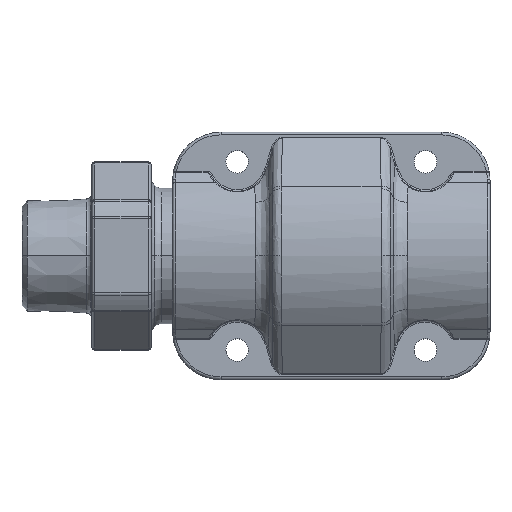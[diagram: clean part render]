
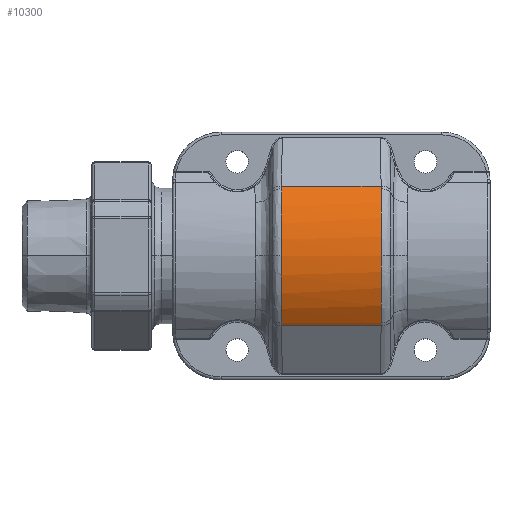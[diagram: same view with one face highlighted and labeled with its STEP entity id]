
A CAD part, top view. The second image highlights one B-rep face of the part: STEP entity #10300.
In plain terms, the highlighted cylindrical face has radius 21.9 mm (diameter 43.8 mm), a partial arc.
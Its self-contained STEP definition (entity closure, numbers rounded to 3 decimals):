
#4789=CARTESIAN_POINT('',(9.259,12.982,17.638));
#4794=CARTESIAN_POINT('',(-9.259,12.982,17.638));
#5823=CARTESIAN_POINT('',(-9.256,12.445,18.02));
#5824=CARTESIAN_POINT('',(-9.258,11.719,18.522));
#5825=CARTESIAN_POINT('',(-9.262,10.206,19.437));
#5826=CARTESIAN_POINT('',(-9.266,7.788,20.526));
#5827=CARTESIAN_POINT('',(-9.269,5.256,21.315));
#5828=CARTESIAN_POINT('',(-9.271,2.647,21.793));
#5829=CARTESIAN_POINT('',(-9.272,0.882,
21.9));
#5830=CARTESIAN_POINT('',(-9.272,0.,
21.9));
#5856=DIRECTION('',(1.,0.,0.));
#5857=VECTOR('',#5856,18.517);
#5858=CARTESIAN_POINT('',(-9.259,12.982,17.638));
#5859=LINE('',#5858,#5857);
#5863=DIRECTION('',(-1.,0.,0.));
#5864=VECTOR('',#5863,18.517);
#5865=CARTESIAN_POINT('',(9.259,-12.982,17.638));
#5866=LINE('',#5865,#5864);
#5870=CARTESIAN_POINT('',(-9.256,-12.446,
18.019));
#5871=CARTESIAN_POINT('',(-9.256,-12.505,
17.979));
#5872=CARTESIAN_POINT('',(-9.257,-12.622,
17.897));
#5873=CARTESIAN_POINT('',(-9.256,-12.801,
17.769));
#5874=CARTESIAN_POINT('',(-9.258,-12.921,
17.682));
#5875=CARTESIAN_POINT('',(-9.259,-12.982,
17.638));
#5930=CARTESIAN_POINT('',(-9.259,-12.982,
17.638));
#5935=CARTESIAN_POINT('',(9.259,-12.982,17.638));
#6046=CARTESIAN_POINT('',(9.259,-12.982,17.638));
#6047=CARTESIAN_POINT('',(9.258,-12.923,17.681));
#6048=CARTESIAN_POINT('',(9.256,-12.804,17.767));
#6049=CARTESIAN_POINT('',(9.257,-12.626,17.895));
#6050=CARTESIAN_POINT('',(9.256,-12.506,17.979));
#6051=CARTESIAN_POINT('',(9.256,-12.445,18.02));
#6065=CARTESIAN_POINT('',(9.256,-12.445,18.02));
#6066=CARTESIAN_POINT('',(9.258,-11.719,18.522));
#6067=CARTESIAN_POINT('',(9.262,-10.206,19.437));
#6068=CARTESIAN_POINT('',(9.266,-7.788,20.526));
#6069=CARTESIAN_POINT('',(9.269,-5.256,21.315));
#6070=CARTESIAN_POINT('',(9.271,-2.647,21.793));
#6071=CARTESIAN_POINT('',(9.272,-0.882,
21.9));
#6072=CARTESIAN_POINT('',(9.272,0.,
21.9));
#6098=CARTESIAN_POINT('',(9.272,0.,
21.9));
#6099=CARTESIAN_POINT('',(9.272,0.883,21.9));
#6100=CARTESIAN_POINT('',(9.271,2.648,21.793));
#6101=CARTESIAN_POINT('',(9.269,5.257,21.315));
#6102=CARTESIAN_POINT('',(9.266,7.789,20.525));
#6103=CARTESIAN_POINT('',(9.262,10.207,19.436));
#6104=CARTESIAN_POINT('',(9.258,11.72,18.521));
#6105=CARTESIAN_POINT('',(9.256,12.446,18.019));
#6133=CARTESIAN_POINT('',(9.256,12.446,18.019));
#6134=CARTESIAN_POINT('',(9.256,12.505,17.979));
#6135=CARTESIAN_POINT('',(9.257,12.622,17.897));
#6136=CARTESIAN_POINT('',(9.256,12.801,17.769));
#6137=CARTESIAN_POINT('',(9.258,12.921,17.682));
#6138=CARTESIAN_POINT('',(9.259,12.982,17.638));
#7182=CARTESIAN_POINT('',(-9.272,0.,
21.9));
#7183=CARTESIAN_POINT('',(-9.272,-0.883,
21.9));
#7184=CARTESIAN_POINT('',(-9.271,-2.648,
21.793));
#7185=CARTESIAN_POINT('',(-9.269,-5.257,
21.315));
#7186=CARTESIAN_POINT('',(-9.266,-7.789,
20.525));
#7187=CARTESIAN_POINT('',(-9.262,-10.207,
19.436));
#7188=CARTESIAN_POINT('',(-9.258,-11.72,
18.521));
#7189=CARTESIAN_POINT('',(-9.256,-12.446,
18.019));
#7217=CARTESIAN_POINT('',(-9.259,12.982,17.638));
#7218=CARTESIAN_POINT('',(-9.258,12.923,17.681));
#7219=CARTESIAN_POINT('',(-9.256,12.804,17.767));
#7220=CARTESIAN_POINT('',(-9.257,12.626,17.895));
#7221=CARTESIAN_POINT('',(-9.256,12.506,17.979));
#7222=CARTESIAN_POINT('',(-9.256,12.445,18.02));
#7537=VERTEX_POINT('',#4794);
#7540=VERTEX_POINT('',#4789);
#7598=VERTEX_POINT('',#5935);
#7601=VERTEX_POINT('',#5930);
#7643=VERTEX_POINT('',#5823);
#7644=VERTEX_POINT('',#5830);
#7645=VERTEX_POINT('',#5870);
#7646=VERTEX_POINT('',#6133);
#7647=VERTEX_POINT('',#6098);
#7648=VERTEX_POINT('',#6065);
#10275=CARTESIAN_POINT('',(-29.5,0.,0.));
#10276=DIRECTION('',(-1.,0.,0.));
#10277=DIRECTION('',(0.,0.,1.));
#10278=AXIS2_PLACEMENT_3D('',#10275,#10276,#10277);
#10279=CYLINDRICAL_SURFACE('',#10278,21.9);
#10281=ORIENTED_EDGE('',*,*,#10280,.F.);
#10283=ORIENTED_EDGE('',*,*,#10282,.F.);
#10284=ORIENTED_EDGE('',*,*,#10265,.F.);
#10286=ORIENTED_EDGE('',*,*,#10285,.F.);
#10287=ORIENTED_EDGE('',*,*,#8695,.T.);
#10289=ORIENTED_EDGE('',*,*,#10288,.F.);
#10291=ORIENTED_EDGE('',*,*,#10290,.F.);
#10293=ORIENTED_EDGE('',*,*,#10292,.F.);
#10295=ORIENTED_EDGE('',*,*,#10294,.F.);
#10297=ORIENTED_EDGE('',*,*,#10296,.T.);
#10298=EDGE_LOOP('',(#10281,#10283,#10284,#10286,#10287,#10289,#10291,#10293,
#10295,#10297));
#10299=FACE_OUTER_BOUND('',#10298,.F.);
#5831=B_SPLINE_CURVE_WITH_KNOTS('',3,(#5823,#5824,#5825,#5826,#5827,#5828,#5829,
#5830),.UNSPECIFIED.,.F.,.F.,(4,1,1,1,1,4),(0.,0.2,0.4,0.6,0.8,1.),
.UNSPECIFIED.);
#5876=B_SPLINE_CURVE_WITH_KNOTS('',3,(#5870,#5871,#5872,#5873,#5874,#5875),
.UNSPECIFIED.,.F.,.F.,(4,1,1,4),(0.,0.333,0.667,1.),
.UNSPECIFIED.);
#6052=B_SPLINE_CURVE_WITH_KNOTS('',3,(#6046,#6047,#6048,#6049,#6050,#6051),
.UNSPECIFIED.,.F.,.F.,(4,1,1,4),(0.,0.333,0.667,1.),
.UNSPECIFIED.);
#6073=B_SPLINE_CURVE_WITH_KNOTS('',3,(#6065,#6066,#6067,#6068,#6069,#6070,#6071,
#6072),.UNSPECIFIED.,.F.,.F.,(4,1,1,1,1,4),(0.,0.2,0.4,0.6,0.8,1.),
.UNSPECIFIED.);
#6106=B_SPLINE_CURVE_WITH_KNOTS('',3,(#6098,#6099,#6100,#6101,#6102,#6103,#6104,
#6105),.UNSPECIFIED.,.F.,.F.,(4,1,1,1,1,4),(0.,0.2,0.4,0.6,0.8,1.),
.UNSPECIFIED.);
#6139=B_SPLINE_CURVE_WITH_KNOTS('',3,(#6133,#6134,#6135,#6136,#6137,#6138),
.UNSPECIFIED.,.F.,.F.,(4,1,1,4),(0.,0.333,0.667,1.),
.UNSPECIFIED.);
#7190=B_SPLINE_CURVE_WITH_KNOTS('',3,(#7182,#7183,#7184,#7185,#7186,#7187,#7188,
#7189),.UNSPECIFIED.,.F.,.F.,(4,1,1,1,1,4),(0.,0.2,0.4,0.6,0.8,1.),
.UNSPECIFIED.);
#7223=B_SPLINE_CURVE_WITH_KNOTS('',3,(#7217,#7218,#7219,#7220,#7221,#7222),
.UNSPECIFIED.,.F.,.F.,(4,1,1,4),(0.,0.333,0.667,1.),
.UNSPECIFIED.);
#8695=EDGE_CURVE('',#7537,#7540,#5859,.T.);
#10265=EDGE_CURVE('',#7643,#7644,#5831,.T.);
#10280=EDGE_CURVE('',#7645,#7601,#5876,.T.);
#10282=EDGE_CURVE('',#7644,#7645,#7190,.T.);
#10285=EDGE_CURVE('',#7537,#7643,#7223,.T.);
#10288=EDGE_CURVE('',#7646,#7540,#6139,.T.);
#10290=EDGE_CURVE('',#7647,#7646,#6106,.T.);
#10292=EDGE_CURVE('',#7648,#7647,#6073,.T.);
#10294=EDGE_CURVE('',#7598,#7648,#6052,.T.);
#10296=EDGE_CURVE('',#7598,#7601,#5866,.T.);
#10300=ADVANCED_FACE('',(#10299),#10279,.T.);
